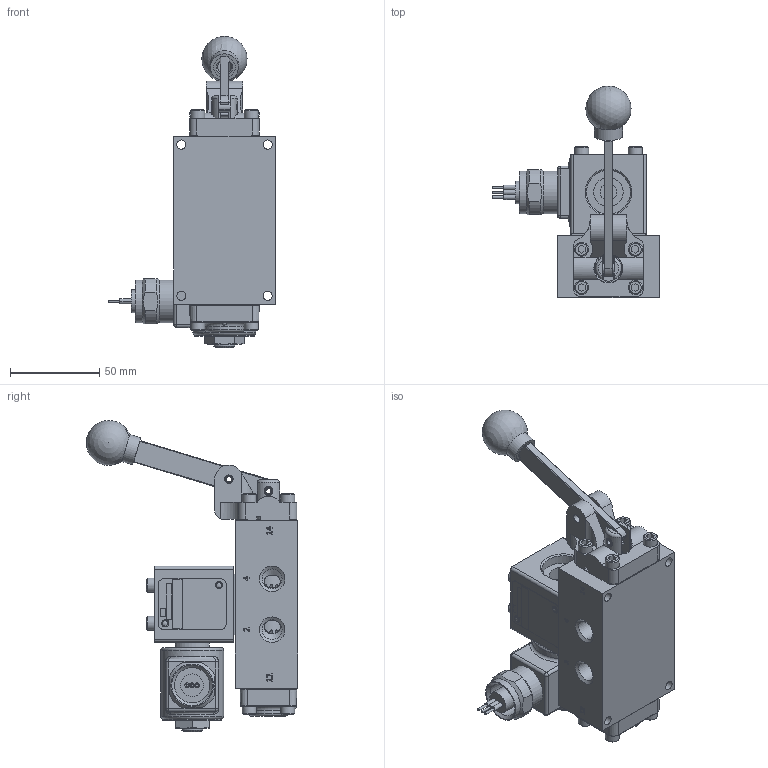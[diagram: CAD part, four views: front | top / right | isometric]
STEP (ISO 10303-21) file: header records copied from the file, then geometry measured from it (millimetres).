
FILE_DESCRIPTION(/* description */ (''),/* implementation_level */ '2;1');
FILE_NAME(/* name */ 'D:\Website Files\stp\Valves\Classic\SAH\SAH2MT.stp',/* time_stamp */ '2017-11-27T14:40:23-05:00',/* author */ ('RMcKenna'),/* organization */ (''),/* preprocessor_version */ 'ST-DEVELOPER v17',/* originating_system */ 'Autodesk Inventor 2018',/* authorisation */ '');
FILE_SCHEMA (('AUTOMOTIVE_DESIGN { 1 0 10303 214 3 1 1 }'));
Products named in the file (1): Part25
Bounding box: 93.59 x 118.53 x 174.54 mm (x, y, z)
Volume: 340932.2 mm3; surface area: 103370.7 mm2
Topology: 2 solids, 33 shells, 1658 faces, 4199 edges, 2733 vertices
Faces by surface type: plane 781, cylinder 328, cone 303, bspline 134, torus 104, sphere 8
Full cylindrical faces by diameter (mm): 1.346 x3, 2.07 x2, 2.261 x2, 2.718 x1, 2.778 x2, 3.048 x3, 3.175 x2, 3.683 x14, 3.912 x1, 3.962 x1, 3.969 x1, 4.366 x7, 4.75 x2, 4.763 x2, 4.826 x16, 4.978 x4, 5.055 x1, 5.156 x12, 5.159 x5, 5.537 x5, 7.798 x1, 7.938 x12, 7.95 x2, 9.144 x1, 9.462 x2, 9.525 x1, 9.728 x1, 11.113 x6, 11.303 x3, 11.43 x1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
Entity records: 56857 total; most frequent: CARTESIAN_POINT 15856, ORIENTED_EDGE 8346, DIRECTION 7933, EDGE_CURVE 4173, AXIS2_PLACEMENT_3D 2895, VERTEX_POINT 2733, LINE 2143, VECTOR 2143
